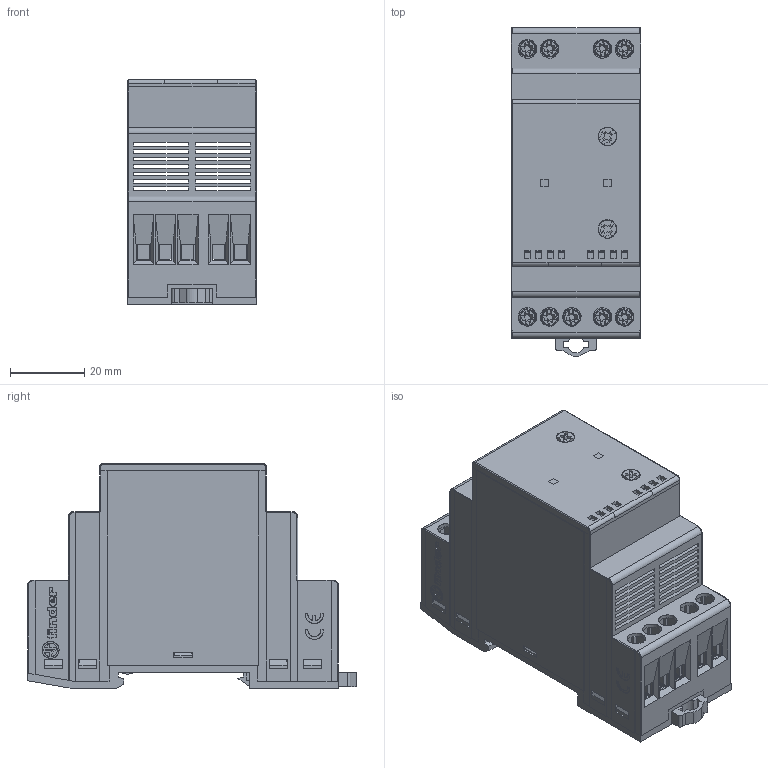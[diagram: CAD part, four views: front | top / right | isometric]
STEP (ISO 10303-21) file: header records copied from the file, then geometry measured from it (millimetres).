
FILE_DESCRIPTION(('STEP AP214'),'2;1');
FILE_NAME('7242---catalogo_OK.stp','2011-04-07T08:59:29',(''),(''),'2007.1.106','THINKDESIGN','');
FILE_SCHEMA(('AUTOMOTIVE_DESIGN'));
Products named in the file (1): None
Bounding box: 35 x 88.85 x 60.8 mm (x, y, z)
Surface area: 27869 mm2 (no closed solid volume)
Topology: 0 solids, 0 shells, 1797 faces, 10975 edges, 10928 vertices
Faces by surface type: plane 1517, bspline 157, cylinder 123
Full cylindrical faces by diameter (mm): 3 x11, 5 x12
Entity records: 110084 total; most frequent: CARTESIAN_POINT 31772, DIRECTION 13537, COMPOSITE_CURVE_SEGMENT 10968, TRIMMED_CURVE 9931, VECTOR 9687, LINE 9687, AXIS2_PLACEMENT_3D 1925, STYLED_ITEM 1798
